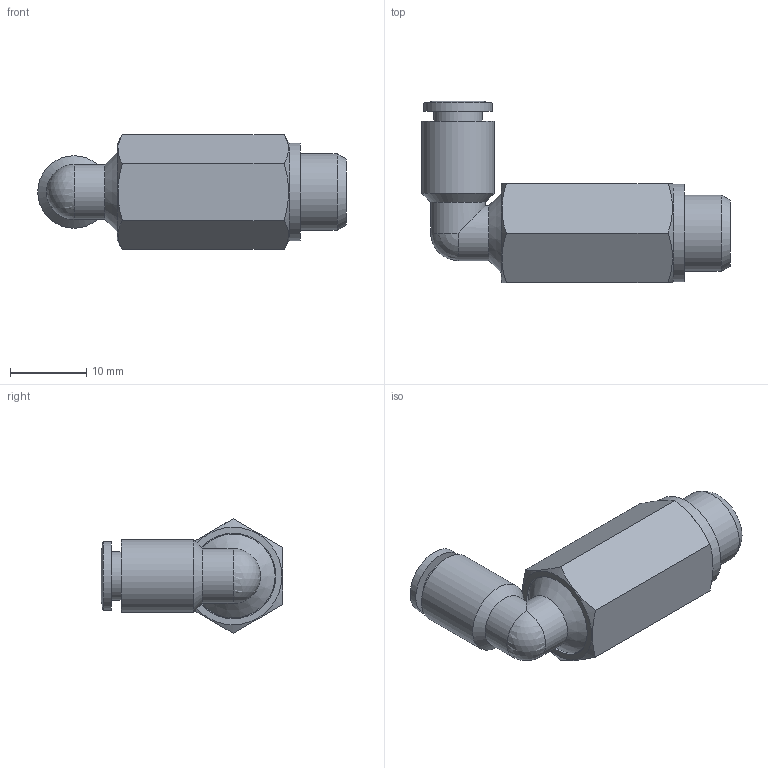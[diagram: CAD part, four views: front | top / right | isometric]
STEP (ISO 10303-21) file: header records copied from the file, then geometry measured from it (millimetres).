
FILE_DESCRIPTION((''),'2;1');
FILE_NAME('C:\Documents and Settings\rivolro1\Documenti\copia di Raccordi\PLASTICA\T22LXXXX\T22L0418.stp','2007-11-02T14:17:29',('Rivolro1'),(''),'Autodesk Inventor 2008','Autodesk Inventor 2008','');
FILE_SCHEMA(('AUTOMOTIVE_DESIGN { 1 0 10303 214 1 1 1 1 }'));
Length unit declared in the file: millimetre
Products named in the file (1): T22L0418
Bounding box: 40.45 x 23.8 x 15.01 mm (x, y, z)
Volume: 4752.2 mm3; surface area: 2816.9 mm2
Topology: 1 solids, 1 shells, 36 faces, 79 edges, 47 vertices
Faces by surface type: plane 15, cylinder 10, cone 6, bspline 4, sphere 1
Full cylindrical faces by diameter (mm): 3 x1, 6.4 x1, 7.2 x2, 9 x1, 9.5 x1, 10 x1, 11 x1, 11.2 x1, 12.8 x1
Entity records: 954 total; most frequent: CARTESIAN_POINT 234, DIRECTION 136, ORIENTED_EDGE 102, AXIS2_PLACEMENT_3D 64, EDGE_LOOP 62, EDGE_CURVE 51, VERTEX_POINT 41, FACE_OUTER_BOUND 36
